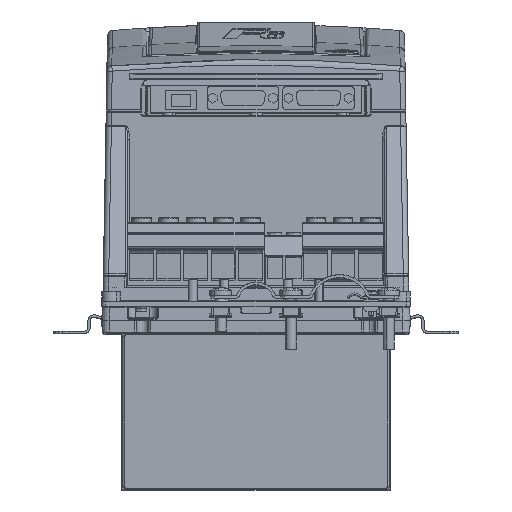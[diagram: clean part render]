
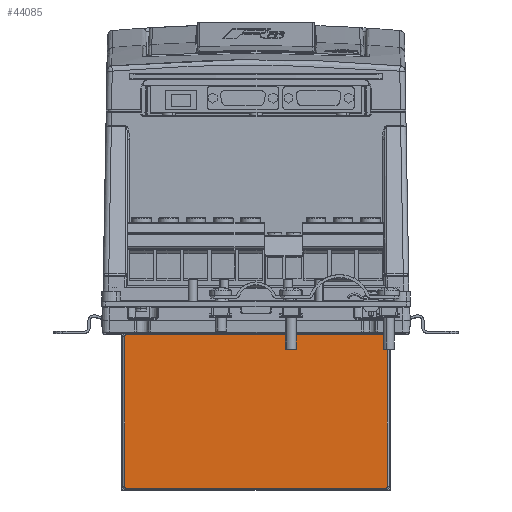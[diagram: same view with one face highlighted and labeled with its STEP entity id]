
A CAD part, top view. The second image highlights one B-rep face of the part: STEP entity #44085.
In plain terms, the highlighted planar face has unit normal (0, 0, 1).
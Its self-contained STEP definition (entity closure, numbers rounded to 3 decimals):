
#2650 = DIRECTION ( 'NONE',  ( 0., 1., 0. ) ) ;
#4379 = CARTESIAN_POINT ( 'NONE',  ( 0., -45.75, 60. ) ) ;
#9355 = AXIS2_PLACEMENT_3D ( 'NONE', #114734, #95057, #15322 ) ;
#15322 = DIRECTION ( 'NONE',  ( 1., 0., 0. ) ) ;
#17133 = CIRCLE ( 'NONE', #44472, 1. ) ;
#17652 = AXIS2_PLACEMENT_3D ( 'NONE', #74994, #74334, #114444 ) ;
#18403 = CARTESIAN_POINT ( 'NONE',  ( 71.5, -88., 60. ) ) ;
#19941 = ORIENTED_EDGE ( 'NONE', *, *, #24552, .T. ) ;
#20809 = DIRECTION ( 'NONE',  ( 1., 0., 0. ) ) ;
#24552 = EDGE_CURVE ( 'NONE', #34313, #88511, #95415, .T. ) ;
#24663 = EDGE_CURVE ( 'NONE', #78896, #57035, #101194, .T. ) ;
#26117 = CARTESIAN_POINT ( 'NONE',  ( 0., -88., 60. ) ) ;
#28735 = DIRECTION ( 'NONE',  ( 1., 0., 0. ) ) ;
#32855 = CARTESIAN_POINT ( 'NONE',  ( 72.5, -45.75, 60. ) ) ;
#33484 = CARTESIAN_POINT ( 'NONE',  ( -72.5, -4.5, 60. ) ) ;
#34313 = VERTEX_POINT ( 'NONE', #110548 ) ;
#34879 = EDGE_CURVE ( 'NONE', #115170, #60012, #92674, .T. ) ;
#35414 = EDGE_CURVE ( 'NONE', #119536, #115170, #118947, .T. ) ;
#36258 = CARTESIAN_POINT ( 'NONE',  ( 72.5, -87., 60. ) ) ;
#39571 = DIRECTION ( 'NONE',  ( -1., 0., 0. ) ) ;
#43185 = CARTESIAN_POINT ( 'NONE',  ( 71.5, -87., 60. ) ) ;
#43422 = LINE ( 'NONE', #32855, #76244 ) ;
#44085 = ADVANCED_FACE ( 'NONE', ( #116276 ), #84077, .T. ) ;
#44472 = AXIS2_PLACEMENT_3D ( 'NONE', #79493, #101135, #20809 ) ;
#45610 = CARTESIAN_POINT ( 'NONE',  ( 71.5, -3.5, 60. ) ) ;
#48160 = CARTESIAN_POINT ( 'NONE',  ( 0., -3.5, 60. ) ) ;
#49840 = DIRECTION ( 'NONE',  ( 0., -1., 0. ) ) ;
#50620 = VERTEX_POINT ( 'NONE', #119858 ) ;
#53338 = ORIENTED_EDGE ( 'NONE', *, *, #35414, .T. ) ;
#54882 = ORIENTED_EDGE ( 'NONE', *, *, #64435, .T. ) ;
#56323 = DIRECTION ( 'NONE',  ( 1., 0., 0. ) ) ;
#56953 = ORIENTED_EDGE ( 'NONE', *, *, #111249, .T. ) ;
#57035 = VERTEX_POINT ( 'NONE', #109828 ) ;
#60012 = VERTEX_POINT ( 'NONE', #36258 ) ;
#64435 = EDGE_CURVE ( 'NONE', #60012, #34313, #43422, .T. ) ;
#66243 = CARTESIAN_POINT ( 'NONE',  ( -71.5, -88., 60. ) ) ;
#69239 = LINE ( 'NONE', #48160, #95271 ) ;
#74334 = DIRECTION ( 'NONE',  ( 0., 0., 1. ) ) ;
#74994 = CARTESIAN_POINT ( 'NONE',  ( 71.5, -4.5, 60. ) ) ;
#76244 = VECTOR ( 'NONE', #2650, 1000. ) ;
#78896 = VERTEX_POINT ( 'NONE', #33484 ) ;
#79493 = CARTESIAN_POINT ( 'NONE',  ( -71.5, -4.5, 60. ) ) ;
#82944 = ORIENTED_EDGE ( 'NONE', *, *, #24663, .T. ) ;
#83398 = DIRECTION ( 'NONE',  ( 1., 0., 0. ) ) ;
#84077 = PLANE ( 'NONE',  #126956 ) ;
#88511 = VERTEX_POINT ( 'NONE', #45610 ) ;
#91083 = EDGE_LOOP ( 'NONE', ( #54882, #19941, #98380, #56953, #82944, #128467, #53338, #122857 ) ) ;
#91355 = DIRECTION ( 'NONE',  ( 0., 0., 1. ) ) ;
#92674 = CIRCLE ( 'NONE', #109440, 1. ) ;
#92912 = EDGE_CURVE ( 'NONE', #57035, #119536, #103934, .T. ) ;
#95057 = DIRECTION ( 'NONE',  ( 0., 0., 1. ) ) ;
#95253 = DIRECTION ( 'NONE',  ( 0., 0., 1. ) ) ;
#95271 = VECTOR ( 'NONE', #39571, 1000. ) ;
#95415 = CIRCLE ( 'NONE', #17652, 1. ) ;
#98380 = ORIENTED_EDGE ( 'NONE', *, *, #106364, .T. ) ;
#101135 = DIRECTION ( 'NONE',  ( 0., 0., 1. ) ) ;
#101194 = LINE ( 'NONE', #120302, #129075 ) ;
#103934 = CIRCLE ( 'NONE', #9355, 1. ) ;
#106364 = EDGE_CURVE ( 'NONE', #88511, #50620, #69239, .T. ) ;
#107442 = VECTOR ( 'NONE', #28735, 1000. ) ;
#109440 = AXIS2_PLACEMENT_3D ( 'NONE', #43185, #91355, #83398 ) ;
#109828 = CARTESIAN_POINT ( 'NONE',  ( -72.5, -87., 60. ) ) ;
#110548 = CARTESIAN_POINT ( 'NONE',  ( 72.5, -4.5, 60. ) ) ;
#111249 = EDGE_CURVE ( 'NONE', #50620, #78896, #17133, .T. ) ;
#114444 = DIRECTION ( 'NONE',  ( 1., 0., 0. ) ) ;
#114734 = CARTESIAN_POINT ( 'NONE',  ( -71.5, -87., 60. ) ) ;
#115170 = VERTEX_POINT ( 'NONE', #18403 ) ;
#116276 = FACE_OUTER_BOUND ( 'NONE', #91083, .T. ) ;
#118947 = LINE ( 'NONE', #26117, #107442 ) ;
#119536 = VERTEX_POINT ( 'NONE', #66243 ) ;
#119858 = CARTESIAN_POINT ( 'NONE',  ( -71.5, -3.5, 60. ) ) ;
#120302 = CARTESIAN_POINT ( 'NONE',  ( -72.5, -45.75, 60. ) ) ;
#122857 = ORIENTED_EDGE ( 'NONE', *, *, #34879, .T. ) ;
#126956 = AXIS2_PLACEMENT_3D ( 'NONE', #4379, #95253, #56323 ) ;
#128467 = ORIENTED_EDGE ( 'NONE', *, *, #92912, .T. ) ;
#129075 = VECTOR ( 'NONE', #49840, 1000. ) ;
